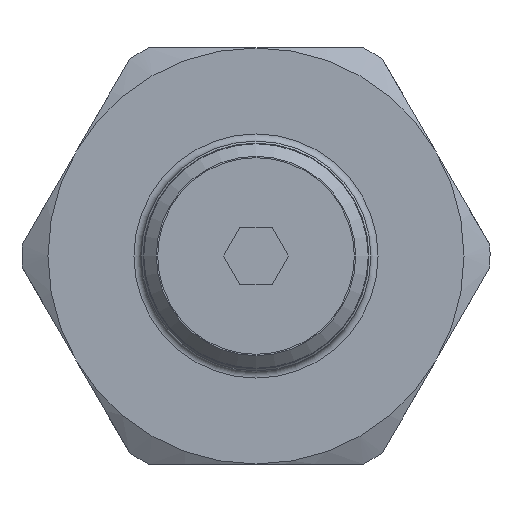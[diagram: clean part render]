
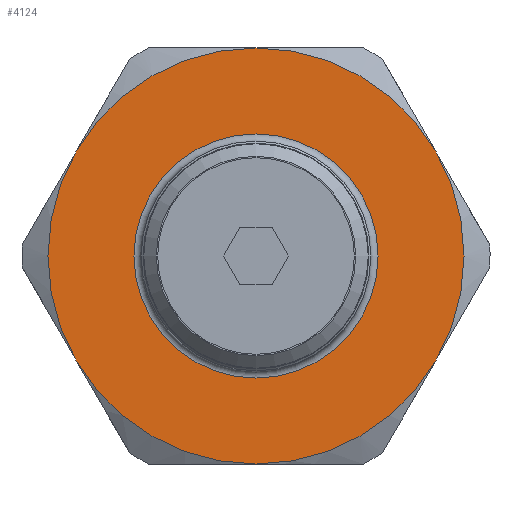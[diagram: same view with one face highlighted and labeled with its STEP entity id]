
A CAD part, left-side view. The second image highlights one B-rep face of the part: STEP entity #4124.
In plain terms, the highlighted planar face has unit normal (-1, 0, 0).
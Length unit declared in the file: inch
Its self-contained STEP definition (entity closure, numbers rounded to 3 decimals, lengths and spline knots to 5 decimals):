
#348=FACE_BOUND('',#836,.T.);
#383=PLANE('',#4536);
#560=FACE_OUTER_BOUND('',#835,.T.);
#835=EDGE_LOOP('',(#3482));
#836=EDGE_LOOP('',(#3483,#3484));
#1338=CIRCLE('',#4469,0.272);
#1343=CIRCLE('',#4474,0.272);
#1384=CIRCLE('',#4537,0.4635);
#1785=VERTEX_POINT('',#9456);
#1786=VERTEX_POINT('',#9457);
#1830=VERTEX_POINT('',#9588);
#2339=EDGE_CURVE('',#1785,#1786,#1338,.T.);
#2344=EDGE_CURVE('',#1786,#1785,#1343,.T.);
#2404=EDGE_CURVE('',#1830,#1830,#1384,.T.);
#3482=ORIENTED_EDGE('',*,*,#2404,.T.);
#3483=ORIENTED_EDGE('',*,*,#2339,.F.);
#3484=ORIENTED_EDGE('',*,*,#2344,.F.);
#4124=ADVANCED_FACE('',(#560,#348),#383,.T.);
#4469=AXIS2_PLACEMENT_3D('',#9458,#5311,#5312);
#4474=AXIS2_PLACEMENT_3D('',#9466,#5321,#5322);
#4536=AXIS2_PLACEMENT_3D('',#9587,#5464,#5465);
#4537=AXIS2_PLACEMENT_3D('',#9589,#5466,#5467);
#5311=DIRECTION('center_axis',(-1.,0.,0.));
#5312=DIRECTION('ref_axis',(0.,0.,1.));
#5321=DIRECTION('center_axis',(-1.,0.,0.));
#5322=DIRECTION('ref_axis',(0.,0.,1.));
#5464=DIRECTION('center_axis',(-1.,0.,0.));
#5465=DIRECTION('ref_axis',(0.,0.,1.));
#5466=DIRECTION('center_axis',(-1.,0.,0.));
#5467=DIRECTION('ref_axis',(0.,0.,-1.));
#9456=CARTESIAN_POINT('',(-0.484,0.272,0.));
#9457=CARTESIAN_POINT('',(-0.484,0.,-0.272));
#9458=CARTESIAN_POINT('Origin',(-0.484,0.,0.));
#9466=CARTESIAN_POINT('Origin',(-0.484,0.,0.));
#9587=CARTESIAN_POINT('Origin',(-0.484,0.,
0.));
#9588=CARTESIAN_POINT('',(-0.484,0.,0.4635));
#9589=CARTESIAN_POINT('Origin',(-0.484,0.,0.));
